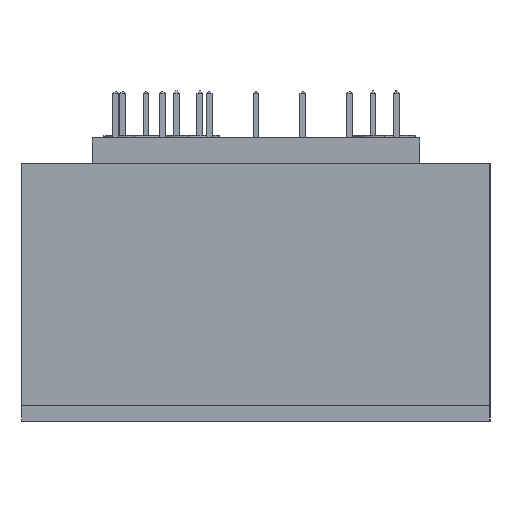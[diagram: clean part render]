
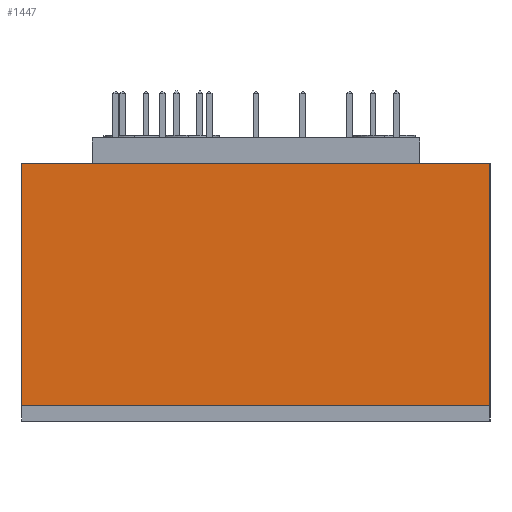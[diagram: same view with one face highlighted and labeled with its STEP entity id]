
A CAD part, left-side view. The second image highlights one B-rep face of the part: STEP entity #1447.
In plain terms, the highlighted planar face has unit normal (-1, 0, 0).
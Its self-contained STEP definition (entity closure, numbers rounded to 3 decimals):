
#1329=CARTESIAN_POINT('',(-4.25,-1.0,-1.535));
#1330=VERTEX_POINT('',#1329);
#1347=CARTESIAN_POINT('',(-4.25,-1.0,-0.5));
#1348=VERTEX_POINT('',#1347);
#1355=CARTESIAN_POINT('',(-4.25,-1.0,-0.5));
#1356=DIRECTION('',(0.0,0.0,-1.0));
#1357=VECTOR('',#1356,1.035);
#1358=LINE('',#1355,#1357);
#1359=EDGE_CURVE('',#1348,#1330,#1358,.T.);
#1400=CARTESIAN_POINT('',(-4.25,1.0,-1.535));
#1401=VERTEX_POINT('',#1400);
#1408=CARTESIAN_POINT('',(-4.25,1.0,-0.5));
#1409=VERTEX_POINT('',#1408);
#1410=CARTESIAN_POINT('',(-4.25,1.0,-0.5));
#1411=DIRECTION('',(0.0,0.0,-1.0));
#1412=VECTOR('',#1411,1.035);
#1413=LINE('',#1410,#1412);
#1414=EDGE_CURVE('',#1409,#1401,#1413,.T.);
#1426=CARTESIAN_POINT('',(-4.25,1.0,-0.5));
#1427=DIRECTION('',(-1.0,0.0,0.0));
#1428=DIRECTION('',(0.0,0.0,1.0));
#1429=AXIS2_PLACEMENT_3D('',#1426,#1427,#1428);
#1430=PLANE('',#1429);
#1431=CARTESIAN_POINT('',(-4.25,1.0,-1.535));
#1432=DIRECTION('',(0.0,-1.0,0.0));
#1433=VECTOR('',#1432,2.0);
#1434=LINE('',#1431,#1433);
#1435=EDGE_CURVE('',#1401,#1330,#1434,.T.);
#1436=ORIENTED_EDGE('',*,*,#1435,.T.);
#1437=ORIENTED_EDGE('',*,*,#1359,.F.);
#1438=CARTESIAN_POINT('',(-4.25,-1.0,-0.5));
#1439=DIRECTION('',(0.0,1.0,0.0));
#1440=VECTOR('',#1439,2.0);
#1441=LINE('',#1438,#1440);
#1442=EDGE_CURVE('',#1348,#1409,#1441,.T.);
#1443=ORIENTED_EDGE('',*,*,#1442,.T.);
#1444=ORIENTED_EDGE('',*,*,#1414,.T.);
#1445=EDGE_LOOP('',(#1436,#1437,#1443,#1444));
#1446=FACE_OUTER_BOUND('',#1445,.T.);
#1447=ADVANCED_FACE('',(#1446),#1430,.T.);
